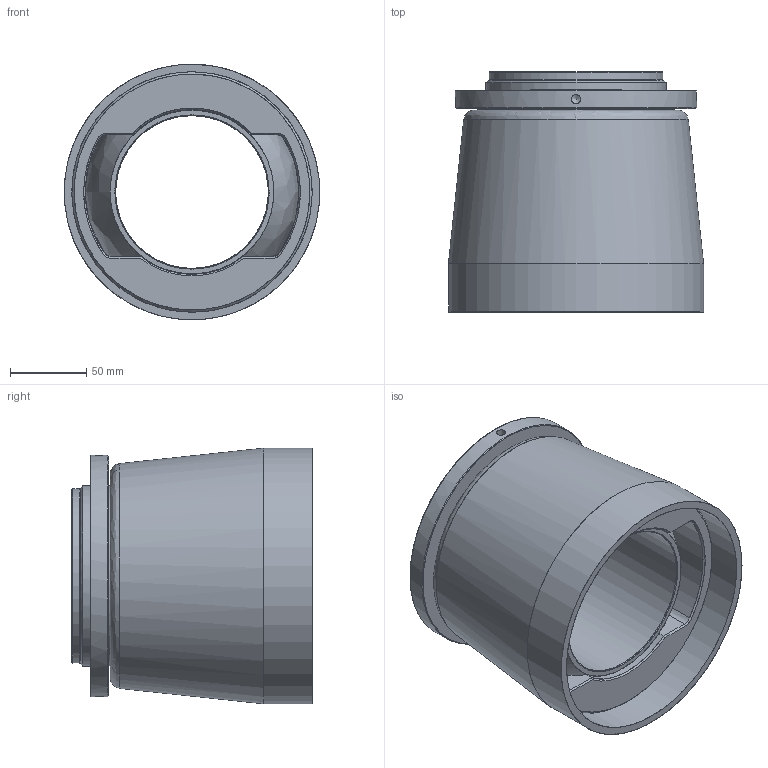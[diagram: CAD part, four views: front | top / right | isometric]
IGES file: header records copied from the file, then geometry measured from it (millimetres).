
Start section: Missler Software 3 rue Hermes, EUROPARC, 31520 Ramonville-Saint-Agne, France Tel   : +33 (0)5 61 00 03 00 Fax   : +33 (0)5 61 00 03 03 Email : sup.solid@topsolid.com
Global section: file name: Z:\J\Jp3\Palier\Palier-type1\3D TopSolid 2011\Serie 10.xx.xx\10.14.xx\10.14.10.igs; native system: TopSolid v611200 Missler Software; preprocessor: IGES preprocessor v100000; author: TAPIN; date: 120223.143251; units: millimetre
Bounding box: 167.5 x 157.35 x 167.5 mm (x, y, z)
Surface area: 365486 mm2 (no closed solid volume)
Topology: 0 solids, 0 shells, 67 faces, 1057 edges, 1034 vertices
Faces by surface type: bspline 67
